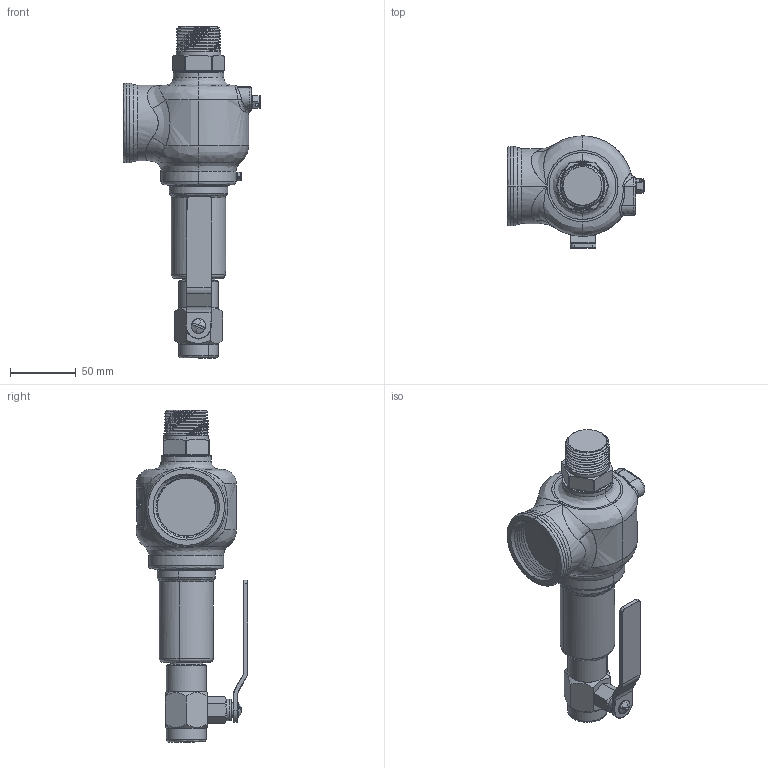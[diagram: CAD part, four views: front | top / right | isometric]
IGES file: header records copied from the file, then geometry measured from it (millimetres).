
Start section: SolidWorks IGES file using NURBS representation for surfaces
Global section: file name: C:\Design\Design\Aquatrol\Customer 3D Files\Series 740 Customer Files\F Orifice\Customer\Iges Files\Series 740 F 1000 x 1500 Packed Lever.IGS; native system: SolidWorks 2015; preprocessor: SolidWorks 2015; author: Karl; date: 150515.102434; units: inch
Bounding box: 104.45 x 84.98 x 252.15 mm (x, y, z)
Surface area: 60235.5 mm2 (no closed solid volume)
Topology: 0 solids, 0 shells, 409 faces, 6749 edges, 6747 vertices
Faces by surface type: bspline 409
